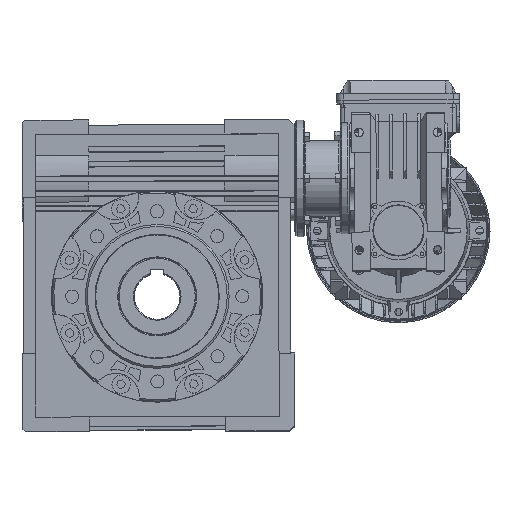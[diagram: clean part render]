
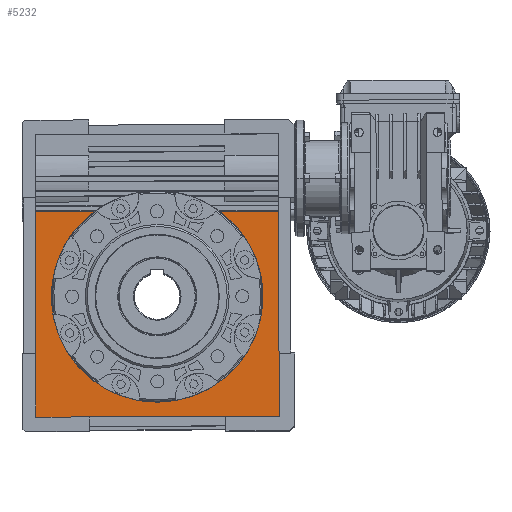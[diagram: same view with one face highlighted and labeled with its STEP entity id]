
A CAD part, top view. The second image highlights one B-rep face of the part: STEP entity #5232.
In plain terms, the highlighted planar face has unit normal (0, 0, 1).
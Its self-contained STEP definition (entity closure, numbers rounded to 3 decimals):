
#641 = FACE_OUTER_BOUND ( 'NONE', #65219, .T. ) ;
#5232 = ADVANCED_FACE ( 'NONE', ( #641 ), #17616, .T. ) ;
#11095 = AXIS2_PLACEMENT_3D ( 'NONE', #40479, #40481, #40482 ) ;
#15655 = EDGE_CURVE ( 'NONE', #50786, #50884, #61686, .T. ) ;
#17609 = DIRECTION ( 'NONE',  ( 1., 0., 0. ) ) ;
#17610 = DIRECTION ( 'NONE',  ( 0., 0., 1. ) ) ;
#17614 = CARTESIAN_POINT ( 'NONE',  ( -91.5, -182., 37. ) ) ;
#17616 = PLANE ( 'NONE',  #140454 ) ;
#21674 = CARTESIAN_POINT ( 'NONE',  ( -184.5, -170.8, 37. ) ) ;
#21772 = CARTESIAN_POINT ( 'NONE',  ( -136.617, -24.917, 37. ) ) ;
#23094 = CARTESIAN_POINT ( 'NONE',  ( -277.5, -182., 37. ) ) ;
#23107 = CARTESIAN_POINT ( 'NONE',  ( -91.5, -182., 37. ) ) ;
#23129 = CARTESIAN_POINT ( 'NONE',  ( -91.5, -24.917, 37. ) ) ;
#23137 = CARTESIAN_POINT ( 'NONE',  ( -277.5, -24.917, 37. ) ) ;
#24242 = CARTESIAN_POINT ( 'NONE',  ( -232.383, -24.917, 37. ) ) ;
#27474 = AXIS2_PLACEMENT_3D ( 'NONE', #89810, #89808, #89806 ) ;
#38560 = LINE ( 'NONE', #40455, #38563 ) ;
#38563 = VECTOR ( 'NONE', #40457, 1000. ) ;
#38565 = CIRCLE ( 'NONE', #11095, 80.8 ) ;
#40455 = CARTESIAN_POINT ( 'NONE',  ( -91.5, -24.917, 37. ) ) ;
#40457 = DIRECTION ( 'NONE',  ( -1., 0., 0. ) ) ;
#40479 = CARTESIAN_POINT ( 'NONE',  ( -184.5, -90., 37. ) ) ;
#40481 = DIRECTION ( 'NONE',  ( 0., 0., 1. ) ) ;
#40482 = DIRECTION ( 'NONE',  ( 0., -1., 0. ) ) ;
#45830 = LINE ( 'NONE', #51539, #45832 ) ;
#45832 = VECTOR ( 'NONE', #51541, 1000. ) ;
#45849 = LINE ( 'NONE', #51626, #45854 ) ;
#45854 = VECTOR ( 'NONE', #51628, 1000. ) ;
#45878 = LINE ( 'NONE', #51649, #45882 ) ;
#45882 = VECTOR ( 'NONE', #51652, 1000. ) ;
#46354 = LINE ( 'NONE', #52015, #46358 ) ;
#46358 = VECTOR ( 'NONE', #52003, 1000. ) ;
#50786 = VERTEX_POINT ( 'NONE', #21674 ) ;
#50884 = VERTEX_POINT ( 'NONE', #21772 ) ;
#51539 = CARTESIAN_POINT ( 'NONE',  ( -91.5, -182., 37. ) ) ;
#51541 = DIRECTION ( 'NONE',  ( 1., 0., 0. ) ) ;
#51626 = CARTESIAN_POINT ( 'NONE',  ( -91.5, -182., 37. ) ) ;
#51628 = DIRECTION ( 'NONE',  ( 0., 1., 0. ) ) ;
#51649 = CARTESIAN_POINT ( 'NONE',  ( -277.5, -182., 37. ) ) ;
#51652 = DIRECTION ( 'NONE',  ( 0., -1., 0. ) ) ;
#52003 = DIRECTION ( 'NONE',  ( -1., 0., 0. ) ) ;
#52015 = CARTESIAN_POINT ( 'NONE',  ( -91.5, -24.917, 37. ) ) ;
#52543 = VERTEX_POINT ( 'NONE', #23094 ) ;
#52553 = VERTEX_POINT ( 'NONE', #23107 ) ;
#52567 = VERTEX_POINT ( 'NONE', #23129 ) ;
#52572 = VERTEX_POINT ( 'NONE', #23137 ) ;
#52676 = VERTEX_POINT ( 'NONE', #24242 ) ;
#56396 = EDGE_CURVE ( 'NONE', #52676, #52572, #38560, .T. ) ;
#56398 = EDGE_CURVE ( 'NONE', #52676, #50786, #38565, .T. ) ;
#57254 = EDGE_CURVE ( 'NONE', #52543, #52553, #45830, .T. ) ;
#57265 = EDGE_CURVE ( 'NONE', #52553, #52567, #45849, .T. ) ;
#57273 = EDGE_CURVE ( 'NONE', #52572, #52543, #45878, .T. ) ;
#57400 = EDGE_CURVE ( 'NONE', #52567, #50884, #46354, .T. ) ;
#61686 = CIRCLE ( 'NONE', #27474, 80.8 ) ;
#65219 = EDGE_LOOP ( 'NONE', ( #91230, #91232, #91234, #91236, #91239, #91242, #91246 ) ) ;
#89806 = DIRECTION ( 'NONE',  ( 0., -1., 0. ) ) ;
#89808 = DIRECTION ( 'NONE',  ( 0., 0., 1. ) ) ;
#89810 = CARTESIAN_POINT ( 'NONE',  ( -184.5, -90., 37. ) ) ;
#91230 = ORIENTED_EDGE ( 'NONE', *, *, #56396, .T. ) ;
#91232 = ORIENTED_EDGE ( 'NONE', *, *, #57273, .T. ) ;
#91234 = ORIENTED_EDGE ( 'NONE', *, *, #57254, .T. ) ;
#91236 = ORIENTED_EDGE ( 'NONE', *, *, #57265, .T. ) ;
#91239 = ORIENTED_EDGE ( 'NONE', *, *, #57400, .T. ) ;
#91242 = ORIENTED_EDGE ( 'NONE', *, *, #15655, .F. ) ;
#91246 = ORIENTED_EDGE ( 'NONE', *, *, #56398, .F. ) ;
#140454 = AXIS2_PLACEMENT_3D ( 'NONE', #17614, #17610, #17609 ) ;
